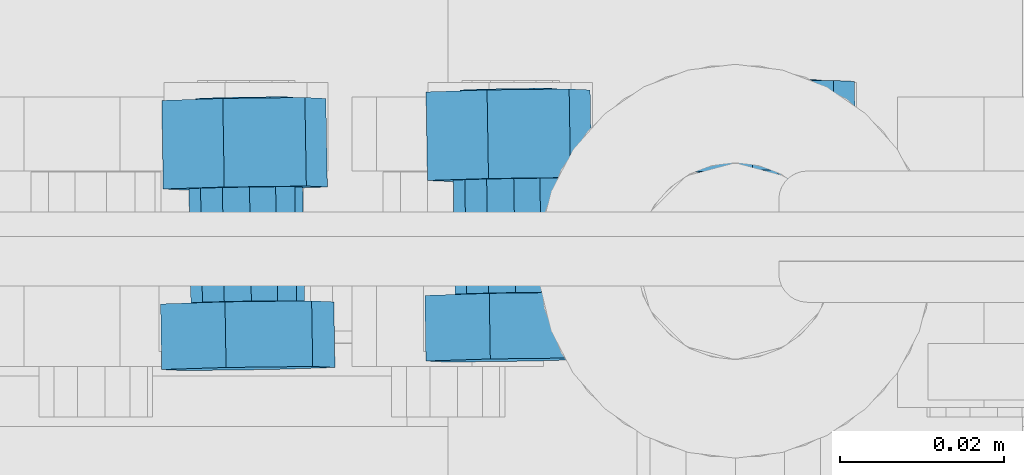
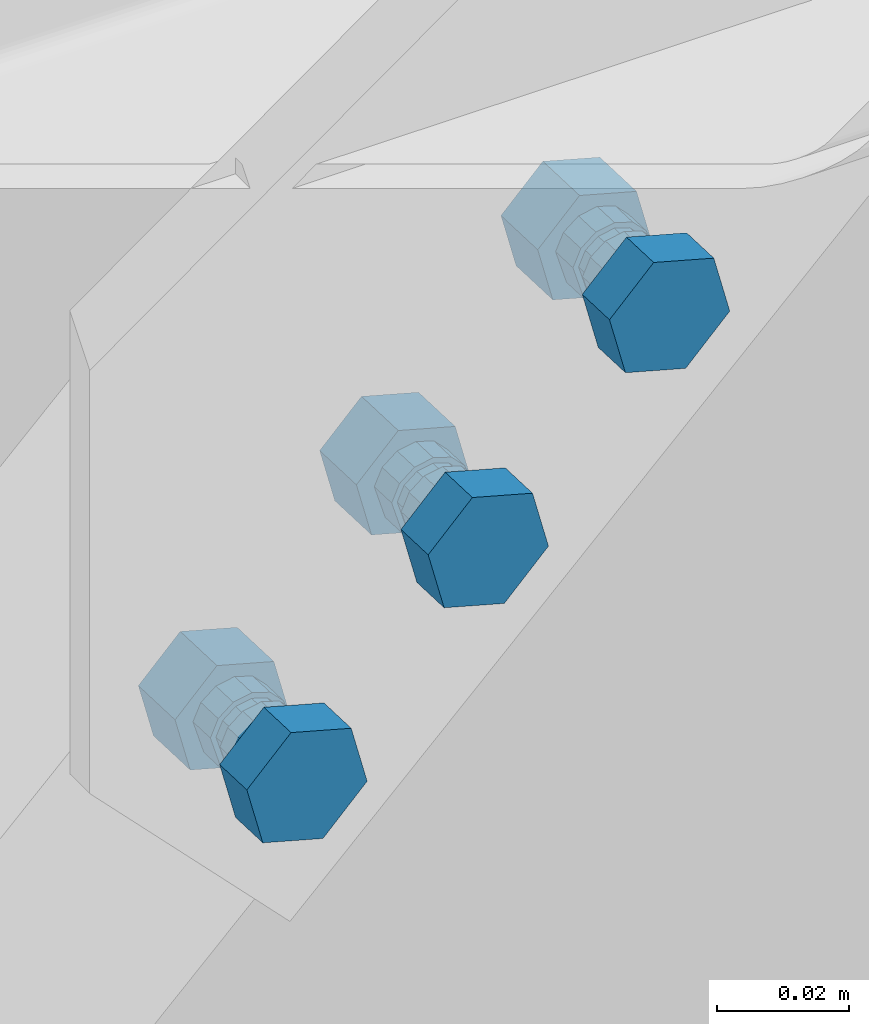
# One storey, part 7 of 18: 1 mechanical fastener.
"""IFC2X3 building model written with IfcOpenShell, lengths in millimetres."""

from ifc_helpers import new_model, si_unit, frame, origin_with_axes, place, context, subcontext, project, spatial, faceted_brep, source, transform, mapped, type_object, element, save


model = new_model("IFC2X3")

# Units and contexts
model_context = context("Model", 3, precision=1e-05, world=origin_with_axes())
body_context = subcontext(model_context, "Body", "Model", "MODEL_VIEW")
ifc_project = project(units=[si_unit("LENGTHUNIT", "METRE", prefix="MILLI"), si_unit("AREAUNIT", "SQUARE_METRE"), si_unit("VOLUMEUNIT", "CUBIC_METRE"), si_unit("MASSUNIT", "GRAM", prefix="KILO"), si_unit("TIMEUNIT", "SECOND"), si_unit("PLANEANGLEUNIT", "RADIAN"), si_unit("SOLIDANGLEUNIT", "STERADIAN"), si_unit("THERMODYNAMICTEMPERATUREUNIT", "DEGREE_CELSIUS"), si_unit("LUMINOUSINTENSITYUNIT", "LUMEN")], contexts=[model_context])

# Site, building, storey
site_placement = place(None, origin_with_axes())
site = spatial("IfcSite", under=ifc_project, at=site_placement, Name="Undefined", CompositionType="ELEMENT")
building_placement = place(site_placement, origin_with_axes())
building = spatial("IfcBuilding", under=site, at=building_placement, Name="Undefined", CompositionType="ELEMENT")
storey_placement = place(building_placement, origin_with_axes())
storey = spatial("IfcBuildingStorey", under=building, at=storey_placement, Name="Undefined", CompositionType="ELEMENT", Elevation=0.0)

# Mechanical fastener
mechanical_fastener_type = type_object("IfcMechanicalFastenerType", Name="Bolt assembly")
shared_shape_1 = source(origin_with_axes(), body_context, "Body", "Brep", [
    faceted_brep([(10.96965511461, -16.5405954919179, 0.0), (5.484827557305, -16.5405954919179, 9.50000000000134), (-5.484827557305, -16.5405954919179, 9.50000000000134), (-10.96965511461, -16.5405954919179, 0.0), (-5.484827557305, -16.5405954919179, -9.50000000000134), (5.484827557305, -16.5405954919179, -9.50000000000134), (5.484827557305, -8.54059549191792, -9.50000000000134), (-5.484827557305, -8.54059549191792, -9.50000000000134), (-10.96965511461, -8.54059549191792, 0.0), (-5.484827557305, -8.54059549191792, 9.50000000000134), (5.484827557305, -8.54059549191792, 9.50000000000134), (10.96965511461, -8.54059549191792, 0.0), (6.0, -8.54059549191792, 0.0), (5.31273615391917, -8.54059549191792, 2.78833903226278), (3.40838848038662, -8.54059549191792, 4.93790319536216), (0.723220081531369, -8.54059549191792, 5.95625324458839), (-2.12762932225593, -8.54059549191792, 5.61009745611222), (-4.49106448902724, -8.54059549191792, 3.97873594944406), (-5.82565090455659, -8.54059549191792, 1.43589398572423), (-5.82565090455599, -8.54059549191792, -1.43589398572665), (-4.49106448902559, -8.54059549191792, -3.97873594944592), (-2.12762932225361, -8.54059549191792, -5.6100974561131), (0.723220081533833, -8.54059549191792, -5.95625324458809), (3.40838848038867, -8.54059549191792, -4.93790319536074), (3.40838848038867, 16.4594045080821, -4.93790319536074), (0.723220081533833, 16.4594045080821, -5.95625324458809), (-2.12762932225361, 16.4594045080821, -5.6100974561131), (-4.49106448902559, 16.4594045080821, -3.97873594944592), (-5.82565090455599, 16.4594045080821, -1.43589398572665), (-5.82565090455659, 16.4594045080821, 1.43589398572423), (-4.49106448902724, 16.4594045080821, 3.97873594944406), (-2.12762932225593, 16.4594045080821, 5.61009745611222), (0.723220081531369, 16.4594045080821, 5.95625324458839), (3.40838848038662, 16.4594045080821, 4.93790319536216), (5.31273615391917, 16.4594045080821, 2.78833903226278), (6.0, 16.4594045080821, 0.0), (10.39230484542, 5.46271291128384, 0.0), (5.19615242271, 5.46271291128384, 9.00000000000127), (-5.19615242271, 5.46271291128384, 9.00000000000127), (-10.39230484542, 5.46271291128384, 0.0), (-5.19615242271, 5.46271291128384, -9.00000000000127), (5.19615242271, 5.46271291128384, -9.00000000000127), (5.19615242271, 16.2627131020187, -9.00000000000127), (-5.19615242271, 16.2627131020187, -9.00000000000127), (-10.39230484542, 16.2627131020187, 0.0), (-5.19615242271, 16.2627131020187, 9.00000000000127), (5.19615242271, 16.2627131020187, 9.00000000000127), (10.39230484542, 16.2627131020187, 0.0)], [[[0, 1, 2, 3, 4, 5]], [[6, 7, 8, 9, 10, 11]], [[0, 11, 10, 1]], [[1, 10, 9, 2]], [[2, 9, 8, 3]], [[3, 8, 7, 4]], [[4, 7, 6, 5]], [[5, 6, 11, 0]], [[12, 13, 14, 15, 16, 17, 18, 19, 20, 21, 22, 23]], [[24, 25, 26, 27, 28, 29, 30, 31, 32, 33, 34, 35]], [[12, 35, 34, 13]], [[13, 34, 33, 14]], [[14, 33, 32, 15]], [[15, 32, 31, 16]], [[16, 31, 30, 17]], [[17, 30, 29, 18]], [[18, 29, 28, 19]], [[19, 28, 27, 20]], [[20, 27, 26, 21]], [[21, 26, 25, 22]], [[22, 25, 24, 23]], [[23, 24, 35, 12]], [[36, 37, 38, 39, 40, 41]], [[42, 43, 44, 45, 46, 47]], [[36, 47, 46, 37]], [[37, 46, 45, 38]], [[38, 45, 44, 39]], [[39, 44, 43, 40]], [[40, 43, 42, 41]], [[41, 42, 47, 36]]]),
    faceted_brep([(7.0, -8.44059549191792, 0.0), (6.19819217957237, -8.44059549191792, 3.25306220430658), (3.97645322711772, -8.44059549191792, 5.76088706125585), (0.843756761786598, -8.44059549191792, 6.94896211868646), (-2.48223420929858, -8.44059549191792, 6.54511369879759), (-5.23957523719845, -8.44059549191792, 4.64185860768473), (-6.79659272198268, -8.44059549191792, 1.67520965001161), (-6.79659272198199, -8.44059549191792, -1.67520965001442), (-5.23957523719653, -8.44059549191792, -4.6418586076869), (-2.48223420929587, -8.44059549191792, -6.54511369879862), (0.843756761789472, -8.44059549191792, -6.94896211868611), (3.97645322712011, -8.44059549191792, -5.7608870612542), (3.97645322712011, -2.43899841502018, -5.7608870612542), (0.843756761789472, -2.43899841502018, -6.94896211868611), (-2.48223420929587, -2.43899841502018, -6.54511369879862), (-5.23957523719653, -2.43899841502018, -4.6418586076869), (-6.79659272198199, -2.43899841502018, -1.67520965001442), (-6.79659272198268, -2.43899841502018, 1.67520965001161), (-5.23957523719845, -2.43899841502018, 4.64185860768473), (-2.48223420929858, -2.43899841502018, 6.54511369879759), (0.843756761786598, -2.43899841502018, 6.94896211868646), (3.97645322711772, -2.43899841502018, 5.76088706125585), (6.19819217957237, -2.43899841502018, 3.25306220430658), (7.0, -2.43899841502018, 0.0), (7.0, 0.361382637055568, 0.0), (6.19819217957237, 0.361382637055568, 3.25306220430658), (3.97645322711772, 0.361382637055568, 5.76088706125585), (0.843756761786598, 0.361382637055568, 6.94896211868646), (-2.48223420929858, 0.361382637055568, 6.54511369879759), (-5.23957523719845, 0.361382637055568, 4.64185860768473), (-6.79659272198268, 0.361382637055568, 1.67520965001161), (-6.79659272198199, 0.361382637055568, -1.67520965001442), (-5.23957523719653, 0.361382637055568, -4.6418586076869), (-2.48223420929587, 0.361382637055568, -6.54511369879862), (0.843756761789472, 0.361382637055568, -6.94896211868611), (3.97645322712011, 0.361382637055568, -5.7608870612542), (3.97645322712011, 5.46271291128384, -5.7608870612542), (0.843756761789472, 5.46271291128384, -6.94896211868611), (-2.48223420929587, 5.46271291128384, -6.54511369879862), (-5.23957523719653, 5.46271291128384, -4.6418586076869), (-6.79659272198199, 5.46271291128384, -1.67520965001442), (-6.79659272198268, 5.46271291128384, 1.67520965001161), (-5.23957523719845, 5.46271291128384, 4.64185860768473), (-2.48223420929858, 5.46271291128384, 6.54511369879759), (0.843756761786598, 5.46271291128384, 6.94896211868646), (3.97645322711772, 5.46271291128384, 5.76088706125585), (6.19819217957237, 5.46271291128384, 3.25306220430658), (7.0, 5.46271291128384, 0.0)], [[[0, 1, 2, 3, 4, 5, 6, 7, 8, 9, 10, 11]], [[12, 13, 14, 15, 16, 17, 18, 19, 20, 21, 22, 23]], [[0, 23, 22, 1]], [[1, 22, 21, 2]], [[2, 21, 20, 3]], [[3, 20, 19, 4]], [[4, 19, 18, 5]], [[5, 18, 17, 6]], [[6, 17, 16, 7]], [[7, 16, 15, 8]], [[8, 15, 14, 9]], [[9, 14, 13, 10]], [[10, 13, 12, 11]], [[11, 12, 23, 0]], [[24, 25, 26, 27, 28, 29, 30, 31, 32, 33, 34, 35]], [[36, 37, 38, 39, 40, 41, 42, 43, 44, 45, 46, 47]], [[24, 47, 46, 25]], [[25, 46, 45, 26]], [[26, 45, 44, 27]], [[27, 44, 43, 28]], [[28, 43, 42, 29]], [[29, 42, 41, 30]], [[30, 41, 40, 31]], [[31, 40, 39, 32]], [[32, 39, 38, 33]], [[33, 38, 37, 34]], [[34, 37, 36, 35]], [[35, 36, 47, 24]]]),
])
shared_shape_2 = source(origin_with_axes(), body_context, "Body", "Brep", [
    faceted_brep([(10.96965511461, -16.5405954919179, 0.0), (5.484827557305, -16.5405954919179, 9.50000000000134), (-5.484827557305, -16.5405954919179, 9.50000000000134), (-10.96965511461, -16.5405954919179, 0.0), (-5.484827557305, -16.5405954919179, -9.50000000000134), (5.484827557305, -16.5405954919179, -9.50000000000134), (5.484827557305, -8.54059549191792, -9.50000000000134), (-5.484827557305, -8.54059549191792, -9.50000000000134), (-10.96965511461, -8.54059549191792, 0.0), (-5.484827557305, -8.54059549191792, 9.50000000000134), (5.484827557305, -8.54059549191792, 9.50000000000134), (10.96965511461, -8.54059549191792, 0.0), (6.0, -8.54059549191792, 0.0), (5.31273615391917, -8.54059549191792, 2.78833903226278), (3.40838848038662, -8.54059549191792, 4.93790319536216), (0.723220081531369, -8.54059549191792, 5.95625324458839), (-2.12762932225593, -8.54059549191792, 5.61009745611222), (-4.49106448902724, -8.54059549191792, 3.97873594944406), (-5.82565090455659, -8.54059549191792, 1.43589398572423), (-5.82565090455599, -8.54059549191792, -1.43589398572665), (-4.49106448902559, -8.54059549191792, -3.97873594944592), (-2.12762932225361, -8.54059549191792, -5.6100974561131), (0.723220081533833, -8.54059549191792, -5.95625324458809), (3.40838848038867, -8.54059549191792, -4.93790319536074), (3.40838848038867, 16.4594045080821, -4.93790319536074), (0.723220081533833, 16.4594045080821, -5.95625324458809), (-2.12762932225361, 16.4594045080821, -5.6100974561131), (-4.49106448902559, 16.4594045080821, -3.97873594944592), (-5.82565090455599, 16.4594045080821, -1.43589398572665), (-5.82565090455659, 16.4594045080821, 1.43589398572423), (-4.49106448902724, 16.4594045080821, 3.97873594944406), (-2.12762932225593, 16.4594045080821, 5.61009745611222), (0.723220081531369, 16.4594045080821, 5.95625324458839), (3.40838848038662, 16.4594045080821, 4.93790319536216), (5.31273615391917, 16.4594045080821, 2.78833903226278), (6.0, 16.4594045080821, 0.0), (10.39230484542, 5.46271291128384, 0.0), (5.19615242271, 5.46271291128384, 9.00000000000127), (-5.19615242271, 5.46271291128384, 9.00000000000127), (-10.39230484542, 5.46271291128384, 0.0), (-5.19615242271, 5.46271291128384, -9.00000000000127), (5.19615242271, 5.46271291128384, -9.00000000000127), (5.19615242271, 16.2627131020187, -9.00000000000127), (-5.19615242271, 16.2627131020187, -9.00000000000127), (-10.39230484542, 16.2627131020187, 0.0), (-5.19615242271, 16.2627131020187, 9.00000000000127), (5.19615242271, 16.2627131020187, 9.00000000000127), (10.39230484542, 16.2627131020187, 0.0)], [[[0, 1, 2, 3, 4, 5]], [[6, 7, 8, 9, 10, 11]], [[0, 11, 10, 1]], [[1, 10, 9, 2]], [[2, 9, 8, 3]], [[3, 8, 7, 4]], [[4, 7, 6, 5]], [[5, 6, 11, 0]], [[12, 13, 14, 15, 16, 17, 18, 19, 20, 21, 22, 23]], [[24, 25, 26, 27, 28, 29, 30, 31, 32, 33, 34, 35]], [[12, 35, 34, 13]], [[13, 34, 33, 14]], [[14, 33, 32, 15]], [[15, 32, 31, 16]], [[16, 31, 30, 17]], [[17, 30, 29, 18]], [[18, 29, 28, 19]], [[19, 28, 27, 20]], [[20, 27, 26, 21]], [[21, 26, 25, 22]], [[22, 25, 24, 23]], [[23, 24, 35, 12]], [[36, 37, 38, 39, 40, 41]], [[42, 43, 44, 45, 46, 47]], [[36, 47, 46, 37]], [[37, 46, 45, 38]], [[38, 45, 44, 39]], [[39, 44, 43, 40]], [[40, 43, 42, 41]], [[41, 42, 47, 36]]]),
    faceted_brep([(7.0, -8.44059549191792, 0.0), (6.19819217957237, -8.44059549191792, 3.25306220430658), (3.97645322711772, -8.44059549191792, 5.76088706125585), (0.843756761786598, -8.44059549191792, 6.94896211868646), (-2.48223420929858, -8.44059549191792, 6.54511369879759), (-5.23957523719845, -8.44059549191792, 4.64185860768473), (-6.79659272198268, -8.44059549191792, 1.67520965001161), (-6.79659272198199, -8.44059549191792, -1.67520965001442), (-5.23957523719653, -8.44059549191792, -4.6418586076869), (-2.48223420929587, -8.44059549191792, -6.54511369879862), (0.843756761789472, -8.44059549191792, -6.94896211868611), (3.97645322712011, -8.44059549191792, -5.7608870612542), (3.97645322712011, -2.43899841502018, -5.7608870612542), (0.843756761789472, -2.43899841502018, -6.94896211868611), (-2.48223420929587, -2.43899841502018, -6.54511369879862), (-5.23957523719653, -2.43899841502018, -4.6418586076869), (-6.79659272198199, -2.43899841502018, -1.67520965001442), (-6.79659272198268, -2.43899841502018, 1.67520965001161), (-5.23957523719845, -2.43899841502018, 4.64185860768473), (-2.48223420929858, -2.43899841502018, 6.54511369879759), (0.843756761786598, -2.43899841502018, 6.94896211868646), (3.97645322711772, -2.43899841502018, 5.76088706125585), (6.19819217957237, -2.43899841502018, 3.25306220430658), (7.0, -2.43899841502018, 0.0), (7.0, 0.361382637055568, 0.0), (6.19819217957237, 0.361382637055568, 3.25306220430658), (3.97645322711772, 0.361382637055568, 5.76088706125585), (0.843756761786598, 0.361382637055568, 6.94896211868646), (-2.48223420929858, 0.361382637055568, 6.54511369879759), (-5.23957523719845, 0.361382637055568, 4.64185860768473), (-6.79659272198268, 0.361382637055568, 1.67520965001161), (-6.79659272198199, 0.361382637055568, -1.67520965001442), (-5.23957523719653, 0.361382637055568, -4.6418586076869), (-2.48223420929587, 0.361382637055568, -6.54511369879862), (0.843756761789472, 0.361382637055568, -6.94896211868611), (3.97645322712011, 0.361382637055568, -5.7608870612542), (3.97645322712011, 5.46271291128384, -5.7608870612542), (0.843756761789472, 5.46271291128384, -6.94896211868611), (-2.48223420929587, 5.46271291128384, -6.54511369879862), (-5.23957523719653, 5.46271291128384, -4.6418586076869), (-6.79659272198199, 5.46271291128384, -1.67520965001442), (-6.79659272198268, 5.46271291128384, 1.67520965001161), (-5.23957523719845, 5.46271291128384, 4.64185860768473), (-2.48223420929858, 5.46271291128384, 6.54511369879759), (0.843756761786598, 5.46271291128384, 6.94896211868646), (3.97645322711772, 5.46271291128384, 5.76088706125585), (6.19819217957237, 5.46271291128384, 3.25306220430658), (7.0, 5.46271291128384, 0.0)], [[[0, 1, 2, 3, 4, 5, 6, 7, 8, 9, 10, 11]], [[12, 13, 14, 15, 16, 17, 18, 19, 20, 21, 22, 23]], [[0, 23, 22, 1]], [[1, 22, 21, 2]], [[2, 21, 20, 3]], [[3, 20, 19, 4]], [[4, 19, 18, 5]], [[5, 18, 17, 6]], [[6, 17, 16, 7]], [[7, 16, 15, 8]], [[8, 15, 14, 9]], [[9, 14, 13, 10]], [[10, 13, 12, 11]], [[11, 12, 23, 0]], [[24, 25, 26, 27, 28, 29, 30, 31, 32, 33, 34, 35]], [[36, 37, 38, 39, 40, 41, 42, 43, 44, 45, 46, 47]], [[24, 47, 46, 25]], [[25, 46, 45, 26]], [[26, 45, 44, 27]], [[27, 44, 43, 28]], [[28, 43, 42, 29]], [[29, 42, 41, 30]], [[30, 41, 40, 31]], [[31, 40, 39, 32]], [[32, 39, 38, 33]], [[33, 38, 37, 34]], [[34, 37, 36, 35]], [[35, 36, 47, 24]]]),
])
shared_shape_3 = source(origin_with_axes(), body_context, "Body", "Brep", [
    faceted_brep([(10.96965511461, -16.5405954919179, 0.0), (5.484827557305, -16.5405954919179, 9.50000000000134), (-5.484827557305, -16.5405954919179, 9.50000000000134), (-10.96965511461, -16.5405954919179, 0.0), (-5.484827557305, -16.5405954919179, -9.50000000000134), (5.484827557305, -16.5405954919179, -9.50000000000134), (5.484827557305, -8.54059549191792, -9.50000000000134), (-5.484827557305, -8.54059549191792, -9.50000000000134), (-10.96965511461, -8.54059549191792, 0.0), (-5.484827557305, -8.54059549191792, 9.50000000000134), (5.484827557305, -8.54059549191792, 9.50000000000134), (10.96965511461, -8.54059549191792, 0.0), (6.0, -8.54059549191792, 0.0), (5.31273615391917, -8.54059549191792, 2.78833903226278), (3.40838848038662, -8.54059549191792, 4.93790319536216), (0.723220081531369, -8.54059549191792, 5.95625324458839), (-2.12762932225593, -8.54059549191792, 5.61009745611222), (-4.49106448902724, -8.54059549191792, 3.97873594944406), (-5.82565090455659, -8.54059549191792, 1.43589398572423), (-5.82565090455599, -8.54059549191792, -1.43589398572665), (-4.49106448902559, -8.54059549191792, -3.97873594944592), (-2.12762932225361, -8.54059549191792, -5.6100974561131), (0.723220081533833, -8.54059549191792, -5.95625324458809), (3.40838848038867, -8.54059549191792, -4.93790319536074), (3.40838848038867, 16.4594045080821, -4.93790319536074), (0.723220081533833, 16.4594045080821, -5.95625324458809), (-2.12762932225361, 16.4594045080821, -5.6100974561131), (-4.49106448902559, 16.4594045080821, -3.97873594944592), (-5.82565090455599, 16.4594045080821, -1.43589398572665), (-5.82565090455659, 16.4594045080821, 1.43589398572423), (-4.49106448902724, 16.4594045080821, 3.97873594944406), (-2.12762932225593, 16.4594045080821, 5.61009745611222), (0.723220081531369, 16.4594045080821, 5.95625324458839), (3.40838848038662, 16.4594045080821, 4.93790319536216), (5.31273615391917, 16.4594045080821, 2.78833903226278), (6.0, 16.4594045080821, 0.0), (10.39230484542, 5.46271291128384, 0.0), (5.19615242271, 5.46271291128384, 9.00000000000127), (-5.19615242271, 5.46271291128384, 9.00000000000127), (-10.39230484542, 5.46271291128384, 0.0), (-5.19615242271, 5.46271291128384, -9.00000000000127), (5.19615242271, 5.46271291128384, -9.00000000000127), (5.19615242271, 16.2627131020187, -9.00000000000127), (-5.19615242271, 16.2627131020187, -9.00000000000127), (-10.39230484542, 16.2627131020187, 0.0), (-5.19615242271, 16.2627131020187, 9.00000000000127), (5.19615242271, 16.2627131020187, 9.00000000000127), (10.39230484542, 16.2627131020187, 0.0)], [[[0, 1, 2, 3, 4, 5]], [[6, 7, 8, 9, 10, 11]], [[0, 11, 10, 1]], [[1, 10, 9, 2]], [[2, 9, 8, 3]], [[3, 8, 7, 4]], [[4, 7, 6, 5]], [[5, 6, 11, 0]], [[12, 13, 14, 15, 16, 17, 18, 19, 20, 21, 22, 23]], [[24, 25, 26, 27, 28, 29, 30, 31, 32, 33, 34, 35]], [[12, 35, 34, 13]], [[13, 34, 33, 14]], [[14, 33, 32, 15]], [[15, 32, 31, 16]], [[16, 31, 30, 17]], [[17, 30, 29, 18]], [[18, 29, 28, 19]], [[19, 28, 27, 20]], [[20, 27, 26, 21]], [[21, 26, 25, 22]], [[22, 25, 24, 23]], [[23, 24, 35, 12]], [[36, 37, 38, 39, 40, 41]], [[42, 43, 44, 45, 46, 47]], [[36, 47, 46, 37]], [[37, 46, 45, 38]], [[38, 45, 44, 39]], [[39, 44, 43, 40]], [[40, 43, 42, 41]], [[41, 42, 47, 36]]]),
    faceted_brep([(7.0, -8.44059549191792, 0.0), (6.19819217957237, -8.44059549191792, 3.25306220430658), (3.97645322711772, -8.44059549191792, 5.76088706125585), (0.843756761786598, -8.44059549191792, 6.94896211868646), (-2.48223420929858, -8.44059549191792, 6.54511369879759), (-5.23957523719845, -8.44059549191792, 4.64185860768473), (-6.79659272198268, -8.44059549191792, 1.67520965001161), (-6.79659272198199, -8.44059549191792, -1.67520965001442), (-5.23957523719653, -8.44059549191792, -4.6418586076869), (-2.48223420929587, -8.44059549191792, -6.54511369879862), (0.843756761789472, -8.44059549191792, -6.94896211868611), (3.97645322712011, -8.44059549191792, -5.7608870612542), (3.97645322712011, -2.43899841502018, -5.7608870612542), (0.843756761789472, -2.43899841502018, -6.94896211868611), (-2.48223420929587, -2.43899841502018, -6.54511369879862), (-5.23957523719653, -2.43899841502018, -4.6418586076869), (-6.79659272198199, -2.43899841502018, -1.67520965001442), (-6.79659272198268, -2.43899841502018, 1.67520965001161), (-5.23957523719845, -2.43899841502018, 4.64185860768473), (-2.48223420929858, -2.43899841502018, 6.54511369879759), (0.843756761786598, -2.43899841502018, 6.94896211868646), (3.97645322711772, -2.43899841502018, 5.76088706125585), (6.19819217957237, -2.43899841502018, 3.25306220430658), (7.0, -2.43899841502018, 0.0), (7.0, 0.361382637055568, 0.0), (6.19819217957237, 0.361382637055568, 3.25306220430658), (3.97645322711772, 0.361382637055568, 5.76088706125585), (0.843756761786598, 0.361382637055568, 6.94896211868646), (-2.48223420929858, 0.361382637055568, 6.54511369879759), (-5.23957523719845, 0.361382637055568, 4.64185860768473), (-6.79659272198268, 0.361382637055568, 1.67520965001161), (-6.79659272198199, 0.361382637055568, -1.67520965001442), (-5.23957523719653, 0.361382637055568, -4.6418586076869), (-2.48223420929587, 0.361382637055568, -6.54511369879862), (0.843756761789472, 0.361382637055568, -6.94896211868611), (3.97645322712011, 0.361382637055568, -5.7608870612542), (3.97645322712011, 5.46271291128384, -5.7608870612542), (0.843756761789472, 5.46271291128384, -6.94896211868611), (-2.48223420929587, 5.46271291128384, -6.54511369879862), (-5.23957523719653, 5.46271291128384, -4.6418586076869), (-6.79659272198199, 5.46271291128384, -1.67520965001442), (-6.79659272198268, 5.46271291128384, 1.67520965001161), (-5.23957523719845, 5.46271291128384, 4.64185860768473), (-2.48223420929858, 5.46271291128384, 6.54511369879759), (0.843756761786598, 5.46271291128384, 6.94896211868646), (3.97645322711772, 5.46271291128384, 5.76088706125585), (6.19819217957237, 5.46271291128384, 3.25306220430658), (7.0, 5.46271291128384, 0.0)], [[[0, 1, 2, 3, 4, 5, 6, 7, 8, 9, 10, 11]], [[12, 13, 14, 15, 16, 17, 18, 19, 20, 21, 22, 23]], [[0, 23, 22, 1]], [[1, 22, 21, 2]], [[2, 21, 20, 3]], [[3, 20, 19, 4]], [[4, 19, 18, 5]], [[5, 18, 17, 6]], [[6, 17, 16, 7]], [[7, 16, 15, 8]], [[8, 15, 14, 9]], [[9, 14, 13, 10]], [[10, 13, 12, 11]], [[11, 12, 23, 0]], [[24, 25, 26, 27, 28, 29, 30, 31, 32, 33, 34, 35]], [[36, 37, 38, 39, 40, 41, 42, 43, 44, 45, 46, 47]], [[24, 47, 46, 25]], [[25, 46, 45, 26]], [[26, 45, 44, 27]], [[27, 44, 43, 28]], [[28, 43, 42, 29]], [[29, 42, 41, 30]], [[30, 41, 40, 31]], [[31, 40, 39, 32]], [[32, 39, 38, 33]], [[33, 38, 37, 34]], [[34, 37, 36, 35]], [[35, 36, 47, 24]]]),
])
mechanical_fastener_placement = place(storey_placement, frame((-55.2128915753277, -69.4612590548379, 3327.14193911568), z_axis=(0.69826254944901, -5.15655110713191e-13, -0.715841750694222), x_axis=(-0.715651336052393, -0.0230629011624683, -0.698076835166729)))
element("IfcMechanicalFastener", 1, at=mechanical_fastener_placement, inside=storey, type_object=mechanical_fastener_type, Name="Bolt assembly", NominalDiameter=12.0, NominalLength=30.0, context=body_context, shape_type="MappedRepresentation", body=[
    mapped(shared_shape_1, transform((0.0, 0.0, 0.0))),
    mapped(shared_shape_2, transform((45.0, 0.0, 0.0))),
    mapped(shared_shape_3, transform((90.0, 0.0, 0.0))),
])

save(model, "model.ifc")
